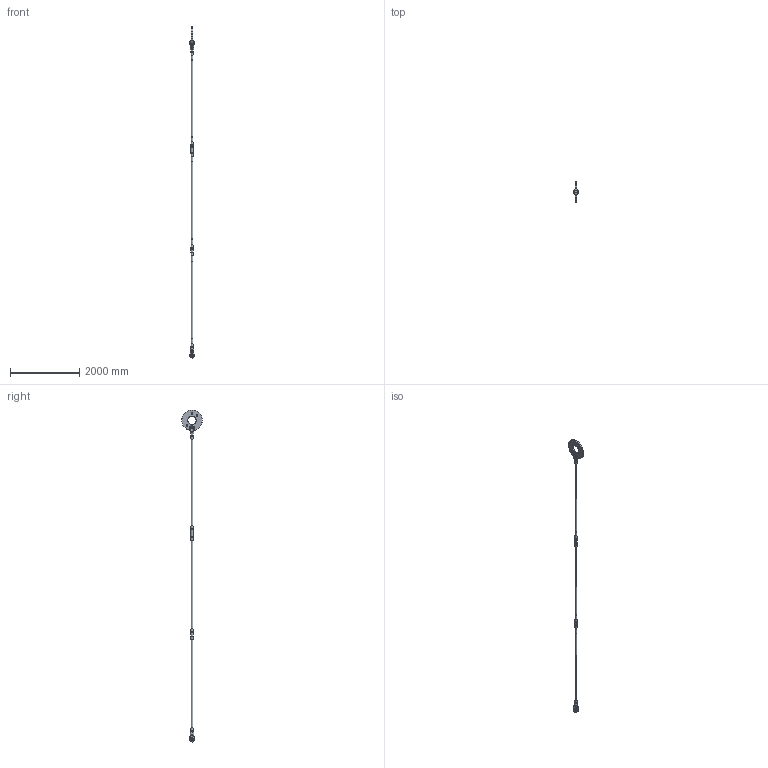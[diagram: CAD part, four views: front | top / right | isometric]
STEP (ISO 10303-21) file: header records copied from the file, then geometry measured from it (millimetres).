
FILE_DESCRIPTION(/* description */ (''),/* implementation_level */ '2;1');
FILE_NAME(/* name */ 'C:\Vault-WS\Anker\Werksnorm\Hochbau\ASDO-System\ASDO-S\System Komplett\Step\M 048.stp',/* time_stamp */ '2014-01-30T09:18:39+01:00',/* author */ ('ritgen'),/* organization */ (''),/* preprocessor_version */ 'ST-DEVELOPER v15.2',/* originating_system */ 'Autodesk Inventor 2014',/* authorisation */ '');
FILE_SCHEMA (('AUTOMOTIVE_DESIGN { 1 0 10303 214 3 1 1 }'));
Length unit declared in the file: millimetre
Products named in the file (11): ASDO-005760; ASDO-006549; ASDO-014322; DIN 7991 - M8x20 - 8.8; ASDO-013934; ASDO-001681; ASDO-001327; ASDO-001452; ASDO-013978; ASDO-014013; ASDO-013977
Bounding box: 121 x 594.43 x 9564.96 mm (x, y, z)
Volume: 29575496.8 mm3; surface area: 2671011.5 mm2
Topology: 20 solids, 20 shells, 465 faces, 994 edges, 608 vertices
Faces by surface type: plane 154, bspline 144, cylinder 79, cone 46, torus 42
Full cylindrical faces by diameter (mm): 6.647 x2, 7 x18, 8 x2, 10 x2, 16 x2, 42.587 x11, 48 x5, 50 x8, 51 x1, 51.5 x6, 68 x4, 69 x6, 72 x2, 240 x1, 595 x1
Entity records: 13737 total; most frequent: CARTESIAN_POINT 9385, DIRECTION 786, ORIENTED_EDGE 782, EDGE_CURVE 391, AXIS2_PLACEMENT_3D 356, EDGE_LOOP 324, VERTEX_POINT 273, ADVANCED_FACE 218
